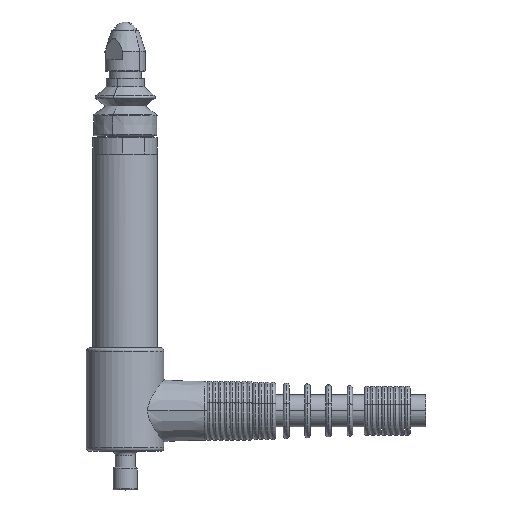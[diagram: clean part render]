
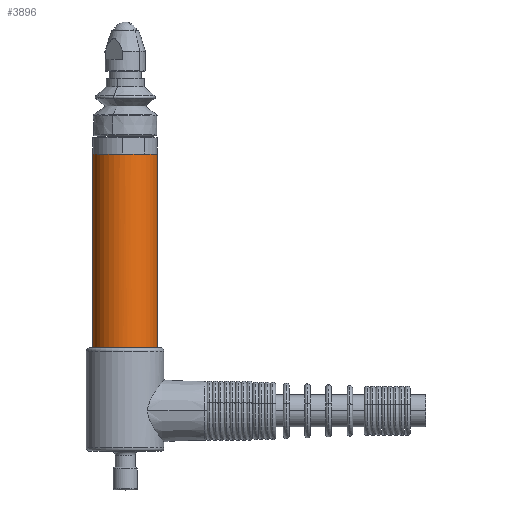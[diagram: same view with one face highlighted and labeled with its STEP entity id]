
A CAD part, top view. The second image highlights one B-rep face of the part: STEP entity #3896.
In plain terms, the highlighted cylindrical face has radius 4 mm (diameter 8 mm), a partial arc.
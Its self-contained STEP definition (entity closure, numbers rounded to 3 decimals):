
#465 = CIRCLE ( 'NONE', #4694, 4. ) ;
#594 = ORIENTED_EDGE ( 'NONE', *, *, #8436, .T. ) ;
#829 = FACE_OUTER_BOUND ( 'NONE', #1808, .T. ) ;
#851 = VECTOR ( 'NONE', #6521, 1000. ) ;
#854 = DIRECTION ( 'NONE',  ( 0., -1., 0. ) ) ;
#910 = CARTESIAN_POINT ( 'NONE',  ( -2.022, 2.787, 0. ) ) ;
#962 = CARTESIAN_POINT ( 'NONE',  ( -7.414, 2.787, 3.75 ) ) ;
#1031 = DIRECTION ( 'NONE',  ( 0., -1., 0. ) ) ;
#1217 = AXIS2_PLACEMENT_3D ( 'NONE', #3660, #1031, #8647 ) ;
#1284 = CARTESIAN_POINT ( 'NONE',  ( -10.022, 2.787, 0. ) ) ;
#1326 = LINE ( 'NONE', #962, #1446 ) ;
#1355 = CARTESIAN_POINT ( 'NONE',  ( -6.022, 2.787, 0. ) ) ;
#1446 = VECTOR ( 'NONE', #1911, 1000. ) ;
#1470 = DIRECTION ( 'NONE',  ( 0., 1., 0. ) ) ;
#1485 = VECTOR ( 'NONE', #1650, 1000. ) ;
#1603 = CARTESIAN_POINT ( 'NONE',  ( -4.63, 2.787, 3.75 ) ) ;
#1621 = DIRECTION ( 'NONE',  ( 1., 0., 0. ) ) ;
#1650 = DIRECTION ( 'NONE',  ( 0., -1., 0. ) ) ;
#1661 = CARTESIAN_POINT ( 'NONE',  ( -6.022, -26.213, 0. ) ) ;
#1668 = EDGE_CURVE ( 'NONE', #4860, #2281, #2802, .T. ) ;
#1702 = CARTESIAN_POINT ( 'NONE',  ( -7.414, -28.413, 3.75 ) ) ;
#1783 = CYLINDRICAL_SURFACE ( 'NONE', #1217, 4. ) ;
#1808 = EDGE_LOOP ( 'NONE', ( #2658, #7316, #594, #7691, #3233, #7157, #8748, #2191 ) ) ;
#1911 = DIRECTION ( 'NONE',  ( 0., 1., 0. ) ) ;
#1999 = CARTESIAN_POINT ( 'NONE',  ( -4.63, -26.213, 3.75 ) ) ;
#2191 = ORIENTED_EDGE ( 'NONE', *, *, #5412, .F. ) ;
#2281 = VERTEX_POINT ( 'NONE', #2668 ) ;
#2317 = LINE ( 'NONE', #910, #4136 ) ;
#2658 = ORIENTED_EDGE ( 'NONE', *, *, #5947, .F. ) ;
#2668 = CARTESIAN_POINT ( 'NONE',  ( -10.022, -28.413, 0. ) ) ;
#2802 = CIRCLE ( 'NONE', #4673, 4. ) ;
#3233 = ORIENTED_EDGE ( 'NONE', *, *, #3244, .T. ) ;
#3244 = EDGE_CURVE ( 'NONE', #4860, #8096, #1326, .T. ) ;
#3373 = CIRCLE ( 'NONE', #5301, 4. ) ;
#3376 = VERTEX_POINT ( 'NONE', #6393 ) ;
#3379 = CARTESIAN_POINT ( 'NONE',  ( -4.63, -28.413, 3.75 ) ) ;
#3444 = CARTESIAN_POINT ( 'NONE',  ( -6.022, -28.413, 0. ) ) ;
#3500 = DIRECTION ( 'NONE',  ( 0., -1., 0. ) ) ;
#3618 = VERTEX_POINT ( 'NONE', #1999 ) ;
#3660 = CARTESIAN_POINT ( 'NONE',  ( -6.022, 2.787, 0. ) ) ;
#3896 = ADVANCED_FACE ( 'NONE', ( #829 ), #1783, .T. ) ;
#4136 = VECTOR ( 'NONE', #854, 1000. ) ;
#4673 = AXIS2_PLACEMENT_3D ( 'NONE', #6525, #5221, #6307 ) ;
#4694 = AXIS2_PLACEMENT_3D ( 'NONE', #1355, #1470, #1621 ) ;
#4860 = VERTEX_POINT ( 'NONE', #1702 ) ;
#4974 = CARTESIAN_POINT ( 'NONE',  ( -2.022, 2.787, 0. ) ) ;
#5221 = DIRECTION ( 'NONE',  ( 0., -1., 0. ) ) ;
#5262 = DIRECTION ( 'NONE',  ( 0., 1., 0. ) ) ;
#5271 = EDGE_CURVE ( 'NONE', #6203, #7974, #465, .T. ) ;
#5301 = AXIS2_PLACEMENT_3D ( 'NONE', #3444, #3500, #8511 ) ;
#5412 = EDGE_CURVE ( 'NONE', #3376, #7032, #3373, .T. ) ;
#5921 = CARTESIAN_POINT ( 'NONE',  ( -7.414, -26.213, 3.75 ) ) ;
#5947 = EDGE_CURVE ( 'NONE', #7974, #3376, #2317, .T. ) ;
#6203 = VERTEX_POINT ( 'NONE', #7396 ) ;
#6307 = DIRECTION ( 'NONE',  ( -1., 0., 0. ) ) ;
#6393 = CARTESIAN_POINT ( 'NONE',  ( -2.022, -28.413, 0. ) ) ;
#6521 = DIRECTION ( 'NONE',  ( 0., -1., 0. ) ) ;
#6525 = CARTESIAN_POINT ( 'NONE',  ( -6.022, -28.413, 0. ) ) ;
#7032 = VERTEX_POINT ( 'NONE', #3379 ) ;
#7157 = ORIENTED_EDGE ( 'NONE', *, *, #8047, .T. ) ;
#7311 = DIRECTION ( 'NONE',  ( 1., 0., 0. ) ) ;
#7316 = ORIENTED_EDGE ( 'NONE', *, *, #5271, .F. ) ;
#7396 = CARTESIAN_POINT ( 'NONE',  ( -10.022, 2.787, 0. ) ) ;
#7691 = ORIENTED_EDGE ( 'NONE', *, *, #1668, .F. ) ;
#7836 = LINE ( 'NONE', #1603, #851 ) ;
#7974 = VERTEX_POINT ( 'NONE', #4974 ) ;
#8010 = AXIS2_PLACEMENT_3D ( 'NONE', #1661, #5262, #7311 ) ;
#8047 = EDGE_CURVE ( 'NONE', #8096, #3618, #8376, .T. ) ;
#8096 = VERTEX_POINT ( 'NONE', #5921 ) ;
#8131 = EDGE_CURVE ( 'NONE', #3618, #7032, #7836, .T. ) ;
#8376 = CIRCLE ( 'NONE', #8010, 4. ) ;
#8436 = EDGE_CURVE ( 'NONE', #6203, #2281, #8694, .T. ) ;
#8511 = DIRECTION ( 'NONE',  ( -1., 0., 0. ) ) ;
#8647 = DIRECTION ( 'NONE',  ( -1., 0., 0. ) ) ;
#8694 = LINE ( 'NONE', #1284, #1485 ) ;
#8748 = ORIENTED_EDGE ( 'NONE', *, *, #8131, .T. ) ;
